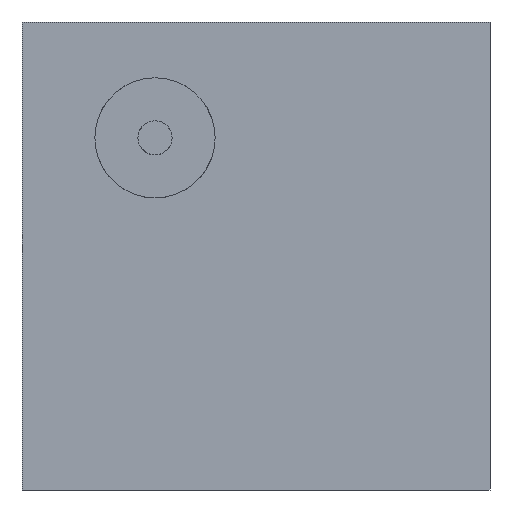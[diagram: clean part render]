
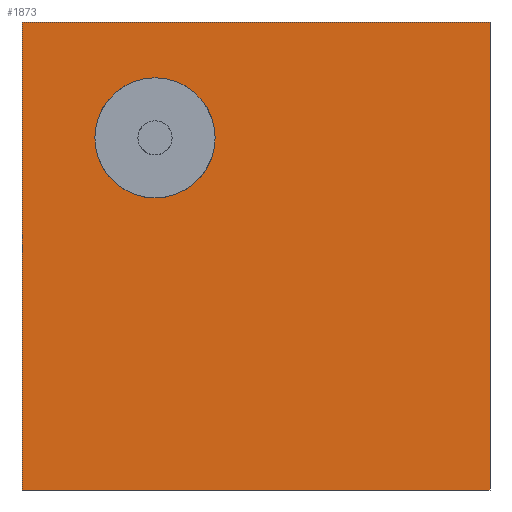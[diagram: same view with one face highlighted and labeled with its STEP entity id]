
A CAD part, left-side view. The second image highlights one B-rep face of the part: STEP entity #1873.
In plain terms, the highlighted planar face has unit normal (-1, 0, 0).
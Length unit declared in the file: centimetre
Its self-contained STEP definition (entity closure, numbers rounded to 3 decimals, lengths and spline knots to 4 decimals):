
#108 = VECTOR ( 'NONE', #813, 100. ) ;
#129 = CARTESIAN_POINT ( 'NONE',  ( 0., 0., 1000. ) ) ;
#149 = CARTESIAN_POINT ( 'NONE',  ( 0., 1000., 1000. ) ) ;
#180 = CARTESIAN_POINT ( 'NONE',  ( 0., 1000., 1000. ) ) ;
#459 = ORIENTED_EDGE ( 'NONE', *, *, #2299, .F. ) ;
#469 = ORIENTED_EDGE ( 'NONE', *, *, #854, .T. ) ;
#474 = CIRCLE ( 'NONE', #1094, 128.4811 ) ;
#548 = DIRECTION ( 'NONE',  ( -1., 0., 0. ) ) ;
#680 = ORIENTED_EDGE ( 'NONE', *, *, #689, .F. ) ;
#689 = EDGE_CURVE ( 'NONE', #2080, #1838, #1269, .T. ) ;
#739 = DIRECTION ( 'NONE',  ( 0., 0., 1. ) ) ;
#770 = AXIS2_PLACEMENT_3D ( 'NONE', #2515, #548, #739 ) ;
#813 = DIRECTION ( 'NONE',  ( 0., -1., 0. ) ) ;
#824 = ORIENTED_EDGE ( 'NONE', *, *, #2537, .F. ) ;
#854 = EDGE_CURVE ( 'NONE', #2260, #1867, #968, .T. ) ;
#968 = LINE ( 'NONE', #149, #1842 ) ;
#1081 = PLANE ( 'NONE',  #2163 ) ;
#1094 = AXIS2_PLACEMENT_3D ( 'NONE', #1161, #2175, #1939 ) ;
#1122 = CARTESIAN_POINT ( 'NONE',  ( 0., 715.774, 623.9481 ) ) ;
#1137 = VECTOR ( 'NONE', #2261, 100. ) ;
#1150 = ORIENTED_EDGE ( 'NONE', *, *, #2243, .T. ) ;
#1161 = CARTESIAN_POINT ( 'NONE',  ( 0., 715.774, 752.4291 ) ) ;
#1174 = DIRECTION ( 'NONE',  ( 0., -1., 0. ) ) ;
#1261 = VECTOR ( 'NONE', #1174, 100. ) ;
#1269 = CIRCLE ( 'NONE', #770, 128.4811 ) ;
#1290 = FACE_BOUND ( 'NONE', #2483, .T. ) ;
#1352 = CARTESIAN_POINT ( 'NONE',  ( 0., 715.774, 880.9102 ) ) ;
#1512 = ORIENTED_EDGE ( 'NONE', *, *, #2156, .F. ) ;
#1540 = LINE ( 'NONE', #129, #1137 ) ;
#1552 = CARTESIAN_POINT ( 'NONE',  ( 0., 1000., 1000. ) ) ;
#1563 = CARTESIAN_POINT ( 'NONE',  ( 0., 0., 0. ) ) ;
#1703 = VERTEX_POINT ( 'NONE', #2212 ) ;
#1712 = EDGE_LOOP ( 'NONE', ( #1150, #824, #1512, #469 ) ) ;
#1738 = LINE ( 'NONE', #2521, #1261 ) ;
#1756 = DIRECTION ( 'NONE',  ( 0., 0., -1. ) ) ;
#1777 = LINE ( 'NONE', #180, #108 ) ;
#1838 = VERTEX_POINT ( 'NONE', #1122 ) ;
#1842 = VECTOR ( 'NONE', #1756, 100. ) ;
#1865 = CARTESIAN_POINT ( 'NONE',  ( 0., 1000., 0. ) ) ;
#1867 = VERTEX_POINT ( 'NONE', #1865 ) ;
#1873 = ADVANCED_FACE ( 'NONE', ( #1290, #2302 ), #1081, .F. ) ;
#1900 = CARTESIAN_POINT ( 'NONE',  ( 0., 1000., 1000. ) ) ;
#1939 = DIRECTION ( 'NONE',  ( 0., 0., 1. ) ) ;
#2054 = VERTEX_POINT ( 'NONE', #1563 ) ;
#2069 = DIRECTION ( 'NONE',  ( 0., 0., -1. ) ) ;
#2080 = VERTEX_POINT ( 'NONE', #1352 ) ;
#2156 = EDGE_CURVE ( 'NONE', #2260, #1703, #1777, .T. ) ;
#2163 = AXIS2_PLACEMENT_3D ( 'NONE', #1900, #2473, #2069 ) ;
#2175 = DIRECTION ( 'NONE',  ( -1., 0., 0. ) ) ;
#2212 = CARTESIAN_POINT ( 'NONE',  ( 0., 0., 1000. ) ) ;
#2243 = EDGE_CURVE ( 'NONE', #1867, #2054, #1738, .T. ) ;
#2260 = VERTEX_POINT ( 'NONE', #1552 ) ;
#2261 = DIRECTION ( 'NONE',  ( 0., 0., -1. ) ) ;
#2299 = EDGE_CURVE ( 'NONE', #1838, #2080, #474, .T. ) ;
#2302 = FACE_OUTER_BOUND ( 'NONE', #1712, .T. ) ;
#2473 = DIRECTION ( 'NONE',  ( 1., 0., 0. ) ) ;
#2483 = EDGE_LOOP ( 'NONE', ( #680, #459 ) ) ;
#2515 = CARTESIAN_POINT ( 'NONE',  ( 0., 715.774, 752.4291 ) ) ;
#2521 = CARTESIAN_POINT ( 'NONE',  ( 0., 1000., 0. ) ) ;
#2537 = EDGE_CURVE ( 'NONE', #1703, #2054, #1540, .T. ) ;
